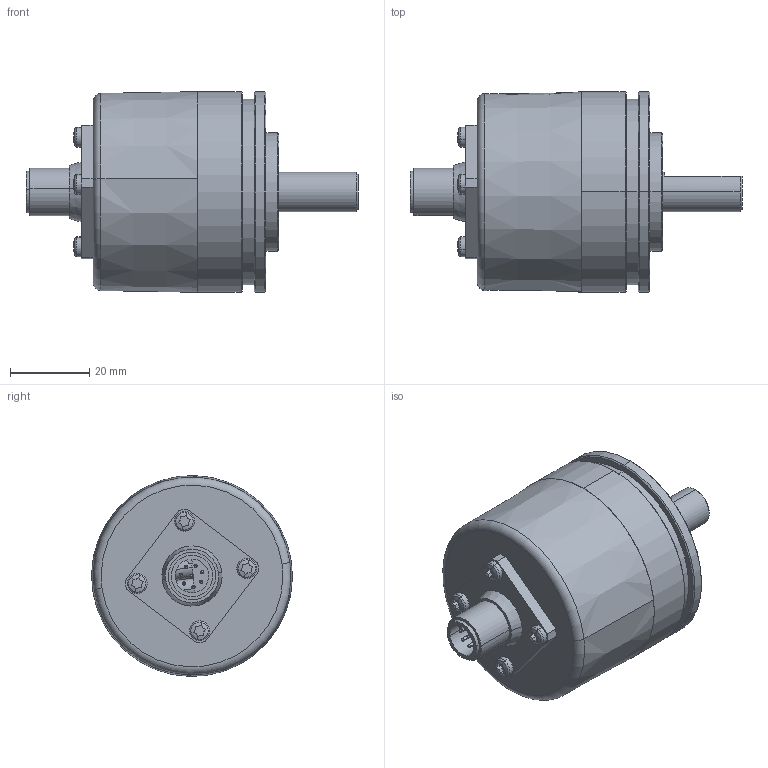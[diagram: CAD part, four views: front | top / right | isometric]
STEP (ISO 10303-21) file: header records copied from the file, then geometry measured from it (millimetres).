
FILE_DESCRIPTION (( 'STEP AP214' ), '1' );
FILE_NAME ('5000.63X3.XXXX.STEP', '2011-01-05T08:40:32', ( 'admin' ), ( 'Fritz Kübler GmbH' ), 'SwSTEP 2.0', 'SolidWorks 2009', '' );
FILE_SCHEMA (( 'AUTOMOTIVE_DESIGN' ));
Length unit declared in the file: millimetre
Products named in the file (1): 5000.63X3.XXXX
Bounding box: 84 x 50.8 x 50.8 mm (x, y, z)
Surface area: 17381.4 mm2 (no closed solid volume)
Topology: 0 solids, 21 shells, 234 faces, 665 edges, 421 vertices
Faces by surface type: plane 80, cylinder 65, sphere 44, cone 27, torus 18
Entity records: 10209 total; most frequent: CARTESIAN_POINT 1857, DIRECTION 1324, ORIENTED_EDGE 1068, EDGE_CURVE 581, AXIS2_PLACEMENT_3D 550, VERTEX_POINT 375, CIRCLE 315, EDGE_LOOP 280
